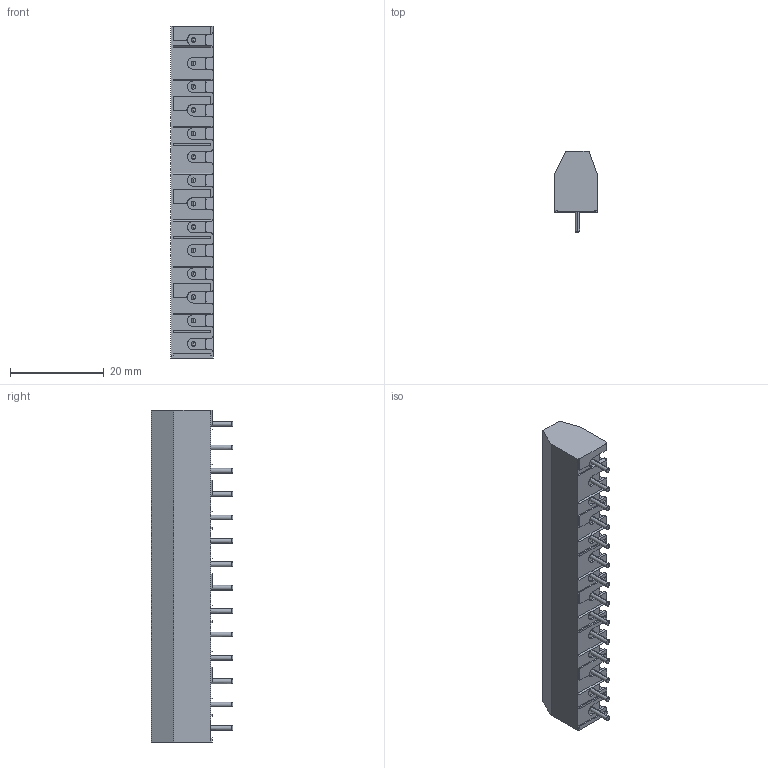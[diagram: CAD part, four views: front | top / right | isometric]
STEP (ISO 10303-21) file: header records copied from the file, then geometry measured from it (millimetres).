
FILE_DESCRIPTION (( 'STEP AP214' ), '1' );
FILE_NAME ('978-DS-14.STEP', '2008-03-02T05:00:35', ( ' ' ), ( '' ), 'SwSTEP 2.0', 'SolidWorks 2007', '' );
FILE_SCHEMA (( 'AUTOMOTIVE_DESIGN' ));
Length unit declared in the file: millimetre
Products named in the file (1): 978-DS-14
Bounding box: 9 x 17.4 x 71 mm (x, y, z)
Volume: 6532.3 mm3; surface area: 4878.5 mm2
Topology: 1 solids, 1 shells, 1069 faces, 3247 edges, 2141 vertices
Faces by surface type: plane 771, cylinder 242, cone 56
Entity records: 37022 total; most frequent: CARTESIAN_POINT 7872, ORIENTED_EDGE 6494, DIRECTION 5647, EDGE_CURVE 3247, VECTOR 2259, LINE 2259, VERTEX_POINT 2141, AXIS2_PLACEMENT_3D 1694
